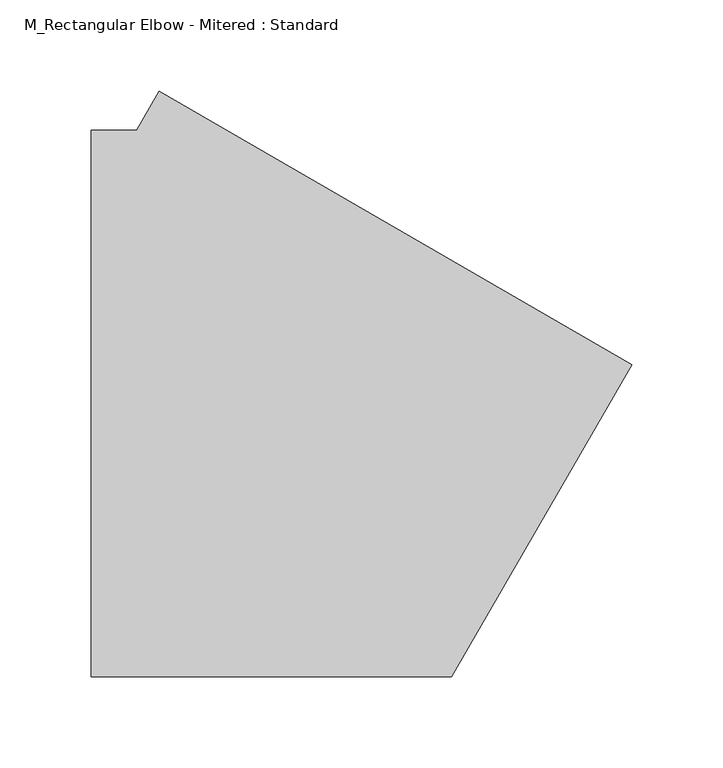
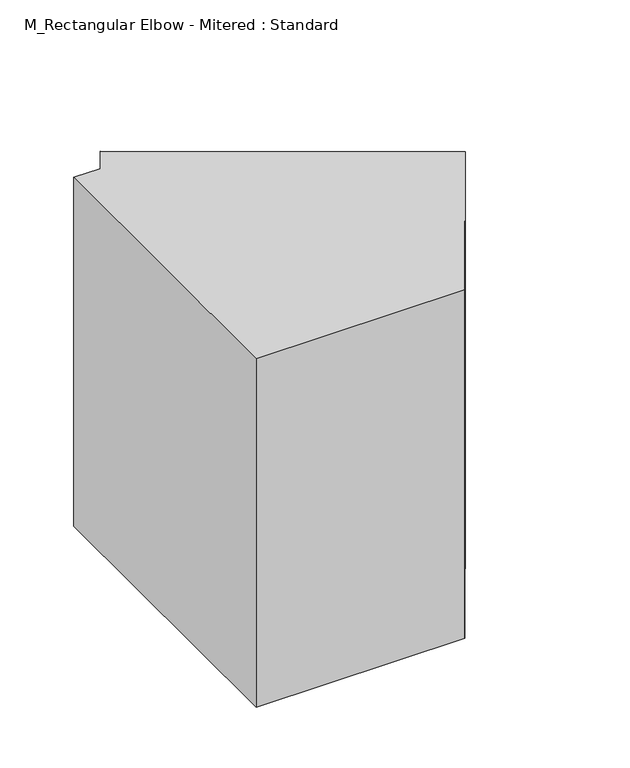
"""IFC4 building model written with IfcOpenShell, lengths in millimetres: duct fitting geometry, M_Rectangular Elbow - Mitered : Standard."""

from ifc_helpers import new_model, si_unit, frame, origin, place, context, project, spatial, polyline, outline, extrude, source, transform, mapped, element, save


def m_rectangular_elbow_mitered_standard_ca528a26(model_context):
    return source(origin(), model_context, "Body", "SweptSolid", [
        extrude(outline(polyline([(-111.50856, -150.0), (-111.50856, 150.0), (-86.50856, 150.0), (-73.9882127, 171.6388748), (185.6782849, 21.3947068), (86.50856, -150.0), (-111.50856, -150.0)])), frame((0.0, 0.0, -175.0), z_axis=(0.0, 0.0, 1.0), x_axis=(1.0, 0.0, 0.0)), (0.0, 0.0, 1.0), 350.0),
        extrude(outline(polyline([(-111.50856, -150.0), (-111.50856, 150.0), (-86.50856, 150.0), (-73.9882127, 171.6388748), (185.6782849, 21.3947068), (86.50856, -150.0), (-111.50856, -150.0)])), frame((0.0, 0.0, -175.0), z_axis=(0.0, 0.0, 1.0), x_axis=(1.0, 0.0, 0.0)), (0.0, 0.0, 1.0), 350.0),
        extrude(outline(polyline([(-111.50856, -150.0), (-111.50856, 150.0), (-86.50856, 150.0), (-73.9882127, 171.6388748), (185.6782849, 21.3947068), (86.50856, -150.0), (-111.50856, -150.0)])), frame((0.0, 0.0, -175.0), z_axis=(0.0, 0.0, 1.0), x_axis=(1.0, 0.0, 0.0)), (0.0, 0.0, 1.0), 350.0),
    ])


if __name__ == "__main__":
    model = new_model("IFC4")
    model_context = context("Model", 3, world=origin())
    ifc_project = project(units=[si_unit("LENGTHUNIT", "METRE", prefix="MILLI")], contexts=[model_context])
    site = spatial("IfcSite", under=ifc_project)
    building = spatial("IfcBuilding", under=site)
    placement = place(None, origin())
    m_rectangular_elbow_mitered_standard_shape = m_rectangular_elbow_mitered_standard_ca528a26(model_context)
    element("IfcDuctFitting", 1, ObjectType="M_Rectangular Elbow - Mitered : Standard", at=placement, inside=building, context=model_context, shape_type="MappedRepresentation", body=[
        mapped(m_rectangular_elbow_mitered_standard_shape, transform((0.0, 0.0, 0.0), x_axis=(1.0, 0.0, 0.0), y_axis=(0.0, 1.0, 0.0), z_axis=(0.0, 0.0, 1.0))),
    ])
    save(model, "model.ifc")
